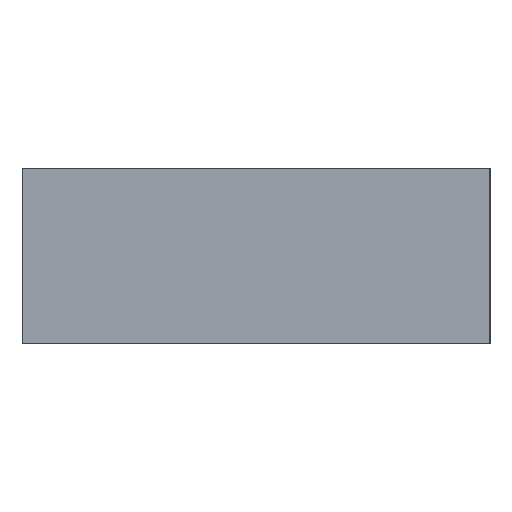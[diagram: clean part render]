
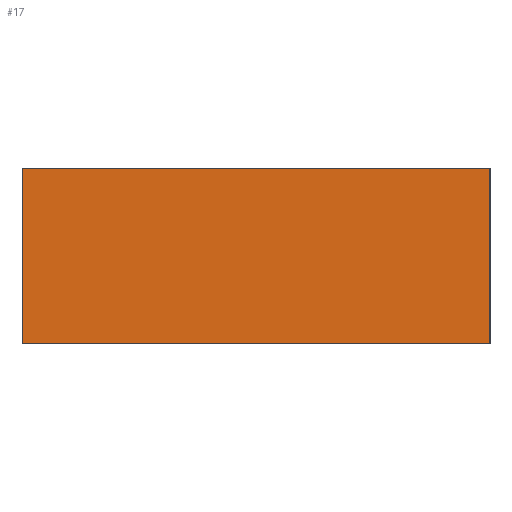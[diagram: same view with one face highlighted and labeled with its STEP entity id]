
A CAD part, left-side view. The second image highlights one B-rep face of the part: STEP entity #17.
In plain terms, the highlighted planar face has unit normal (-1, 0, 0).
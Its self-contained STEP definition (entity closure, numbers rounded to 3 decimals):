
#17 = ADVANCED_FACE('',(#18),#32,.F.);
#18 = FACE_BOUND('',#19,.F.);
#19 = EDGE_LOOP('',(#20,#55,#83,#111));
#20 = ORIENTED_EDGE('',*,*,#21,.F.);
#21 = EDGE_CURVE('',#22,#24,#26,.T.);
#22 = VERTEX_POINT('',#23);
#23 = CARTESIAN_POINT('',(-28.5,-52.94,-13.01));
#24 = VERTEX_POINT('',#25);
#25 = CARTESIAN_POINT('',(-28.5,-52.94,-12.71));
#26 = SURFACE_CURVE('',#27,(#31,#43),.PCURVE_S1.);
#27 = LINE('',#28,#29);
#28 = CARTESIAN_POINT('',(-28.5,-52.94,-13.01));
#29 = VECTOR('',#30,1.);
#30 = DIRECTION('',(0.,0.,1.));
#31 = PCURVE('',#32,#37);
#32 = PLANE('',#33);
#33 = AXIS2_PLACEMENT_3D('',#34,#35,#36);
#34 = CARTESIAN_POINT('',(-28.5,-52.94,-13.01));
#35 = DIRECTION('',(1.,0.,-0.));
#36 = DIRECTION('',(0.,0.,1.));
#37 = DEFINITIONAL_REPRESENTATION('',(#38),#42);
#38 = LINE('',#39,#40);
#39 = CARTESIAN_POINT('',(0.,0.));
#40 = VECTOR('',#41,1.);
#41 = DIRECTION('',(1.,0.));
#42 = ( GEOMETRIC_REPRESENTATION_CONTEXT(2) 
PARAMETRIC_REPRESENTATION_CONTEXT() REPRESENTATION_CONTEXT('2D SPACE',''
  ) );
#43 = PCURVE('',#44,#49);
#44 = PLANE('',#45);
#45 = AXIS2_PLACEMENT_3D('',#46,#47,#48);
#46 = CARTESIAN_POINT('',(-28.5,-52.94,-13.01));
#47 = DIRECTION('',(-0.,1.,0.));
#48 = DIRECTION('',(0.,0.,1.));
#49 = DEFINITIONAL_REPRESENTATION('',(#50),#54);
#50 = LINE('',#51,#52);
#51 = CARTESIAN_POINT('',(0.,0.));
#52 = VECTOR('',#53,1.);
#53 = DIRECTION('',(1.,0.));
#54 = ( GEOMETRIC_REPRESENTATION_CONTEXT(2) 
PARAMETRIC_REPRESENTATION_CONTEXT() REPRESENTATION_CONTEXT('2D SPACE',''
  ) );
#55 = ORIENTED_EDGE('',*,*,#56,.T.);
#56 = EDGE_CURVE('',#22,#57,#59,.T.);
#57 = VERTEX_POINT('',#58);
#58 = CARTESIAN_POINT('',(-28.5,-52.14,-13.01));
#59 = SURFACE_CURVE('',#60,(#64,#71),.PCURVE_S1.);
#60 = LINE('',#61,#62);
#61 = CARTESIAN_POINT('',(-28.5,-52.94,-13.01));
#62 = VECTOR('',#63,1.);
#63 = DIRECTION('',(-0.,1.,0.));
#64 = PCURVE('',#32,#65);
#65 = DEFINITIONAL_REPRESENTATION('',(#66),#70);
#66 = LINE('',#67,#68);
#67 = CARTESIAN_POINT('',(0.,0.));
#68 = VECTOR('',#69,1.);
#69 = DIRECTION('',(0.,-1.));
#70 = ( GEOMETRIC_REPRESENTATION_CONTEXT(2) 
PARAMETRIC_REPRESENTATION_CONTEXT() REPRESENTATION_CONTEXT('2D SPACE',''
  ) );
#71 = PCURVE('',#72,#77);
#72 = PLANE('',#73);
#73 = AXIS2_PLACEMENT_3D('',#74,#75,#76);
#74 = CARTESIAN_POINT('',(-28.5,-52.94,-13.01));
#75 = DIRECTION('',(0.,0.,1.));
#76 = DIRECTION('',(1.,0.,-0.));
#77 = DEFINITIONAL_REPRESENTATION('',(#78),#82);
#78 = LINE('',#79,#80);
#79 = CARTESIAN_POINT('',(0.,0.));
#80 = VECTOR('',#81,1.);
#81 = DIRECTION('',(0.,1.));
#82 = ( GEOMETRIC_REPRESENTATION_CONTEXT(2) 
PARAMETRIC_REPRESENTATION_CONTEXT() REPRESENTATION_CONTEXT('2D SPACE',''
  ) );
#83 = ORIENTED_EDGE('',*,*,#84,.T.);
#84 = EDGE_CURVE('',#57,#85,#87,.T.);
#85 = VERTEX_POINT('',#86);
#86 = CARTESIAN_POINT('',(-28.5,-52.14,-12.71));
#87 = SURFACE_CURVE('',#88,(#92,#99),.PCURVE_S1.);
#88 = LINE('',#89,#90);
#89 = CARTESIAN_POINT('',(-28.5,-52.14,-13.01));
#90 = VECTOR('',#91,1.);
#91 = DIRECTION('',(0.,0.,1.));
#92 = PCURVE('',#32,#93);
#93 = DEFINITIONAL_REPRESENTATION('',(#94),#98);
#94 = LINE('',#95,#96);
#95 = CARTESIAN_POINT('',(0.,-0.8));
#96 = VECTOR('',#97,1.);
#97 = DIRECTION('',(1.,0.));
#98 = ( GEOMETRIC_REPRESENTATION_CONTEXT(2) 
PARAMETRIC_REPRESENTATION_CONTEXT() REPRESENTATION_CONTEXT('2D SPACE',''
  ) );
#99 = PCURVE('',#100,#105);
#100 = PLANE('',#101);
#101 = AXIS2_PLACEMENT_3D('',#102,#103,#104);
#102 = CARTESIAN_POINT('',(-28.5,-52.14,-13.01));
#103 = DIRECTION('',(-0.,1.,0.));
#104 = DIRECTION('',(0.,0.,1.));
#105 = DEFINITIONAL_REPRESENTATION('',(#106),#110);
#106 = LINE('',#107,#108);
#107 = CARTESIAN_POINT('',(0.,0.));
#108 = VECTOR('',#109,1.);
#109 = DIRECTION('',(1.,0.));
#110 = ( GEOMETRIC_REPRESENTATION_CONTEXT(2) 
PARAMETRIC_REPRESENTATION_CONTEXT() REPRESENTATION_CONTEXT('2D SPACE',''
  ) );
#111 = ORIENTED_EDGE('',*,*,#112,.F.);
#112 = EDGE_CURVE('',#24,#85,#113,.T.);
#113 = SURFACE_CURVE('',#114,(#118,#125),.PCURVE_S1.);
#114 = LINE('',#115,#116);
#115 = CARTESIAN_POINT('',(-28.5,-52.94,-12.71));
#116 = VECTOR('',#117,1.);
#117 = DIRECTION('',(-0.,1.,0.));
#118 = PCURVE('',#32,#119);
#119 = DEFINITIONAL_REPRESENTATION('',(#120),#124);
#120 = LINE('',#121,#122);
#121 = CARTESIAN_POINT('',(0.3,0.));
#122 = VECTOR('',#123,1.);
#123 = DIRECTION('',(0.,-1.));
#124 = ( GEOMETRIC_REPRESENTATION_CONTEXT(2) 
PARAMETRIC_REPRESENTATION_CONTEXT() REPRESENTATION_CONTEXT('2D SPACE',''
  ) );
#125 = PCURVE('',#126,#131);
#126 = PLANE('',#127);
#127 = AXIS2_PLACEMENT_3D('',#128,#129,#130);
#128 = CARTESIAN_POINT('',(-28.5,-52.94,-12.71));
#129 = DIRECTION('',(0.,0.,1.));
#130 = DIRECTION('',(1.,0.,-0.));
#131 = DEFINITIONAL_REPRESENTATION('',(#132),#136);
#132 = LINE('',#133,#134);
#133 = CARTESIAN_POINT('',(0.,0.));
#134 = VECTOR('',#135,1.);
#135 = DIRECTION('',(0.,1.));
#136 = ( GEOMETRIC_REPRESENTATION_CONTEXT(2) 
PARAMETRIC_REPRESENTATION_CONTEXT() REPRESENTATION_CONTEXT('2D SPACE',''
  ) );
